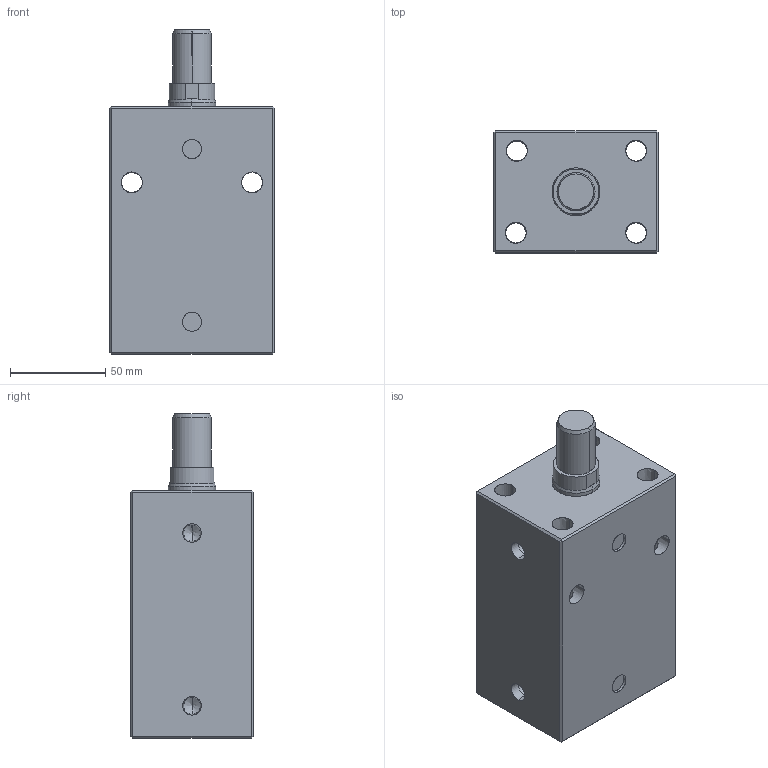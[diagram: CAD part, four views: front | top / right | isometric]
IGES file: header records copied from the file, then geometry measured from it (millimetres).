
Start section: SolidWorks IGES file using analytic representation for surfaces
Global section: file name: E:\ALL-SSVT-BLOCK\40-BORE-IGS-MODEL\BC04-40-75-M.IGS; native system: SolidWorks 2019; preprocessor: SolidWorks 2019; author: SSVT; date: 210825.145324; units: millimetre
Bounding box: 86 x 64 x 170 mm (x, y, z)
Surface area: 90538.8 mm2 (no closed solid volume)
Topology: 0 solids, 0 shells, 88 faces, 1684 edges, 1680 vertices
Faces by surface type: revolution 52, bspline 36
